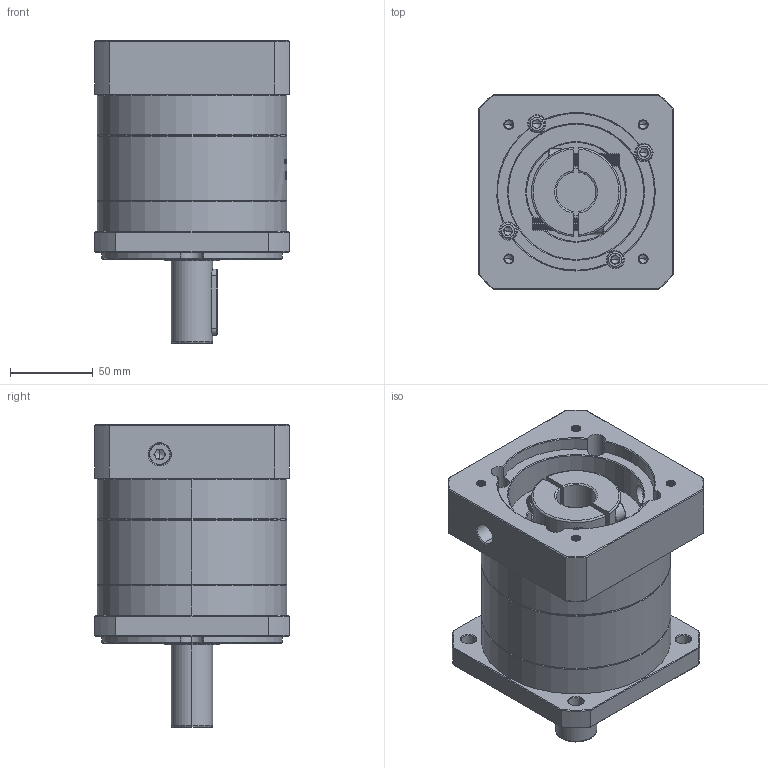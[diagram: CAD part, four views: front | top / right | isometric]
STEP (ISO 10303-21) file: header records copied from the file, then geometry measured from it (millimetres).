
FILE_DESCRIPTION (( 'STEP AP214' ), '1' );
FILE_NAME ('ZF120A-D25-L1-24-95-115-M6.step', '2023-03-07T09:28:47', ( '' ), ( '' ), 'SwSTEP 2.0', 'SolidWorks 2016', '' );
FILE_SCHEMA (( 'AUTOMOTIVE_DESIGN' ));
Length unit declared in the file: millimetre
Products named in the file (1): ZF120A-D25-L1-24-95-115-M6
Bounding box: 118 x 118 x 183.5 mm (x, y, z)
Volume: 1361448.4 mm3; surface area: 157300.8 mm2
Topology: 6 solids, 6 shells, 1962 faces, 5157 edges, 3289 vertices
Faces by surface type: plane 857, cylinder 421, cone 343, bspline 341
Entity records: 106945 total; most frequent: CARTESIAN_POINT 40755, ORIENTED_EDGE 10254, DIRECTION 7971, EDGE_CURVE 5127, VERTEX_POINT 3289, LINE 2753, VECTOR 2753, AXIS2_PLACEMENT_3D 2609
